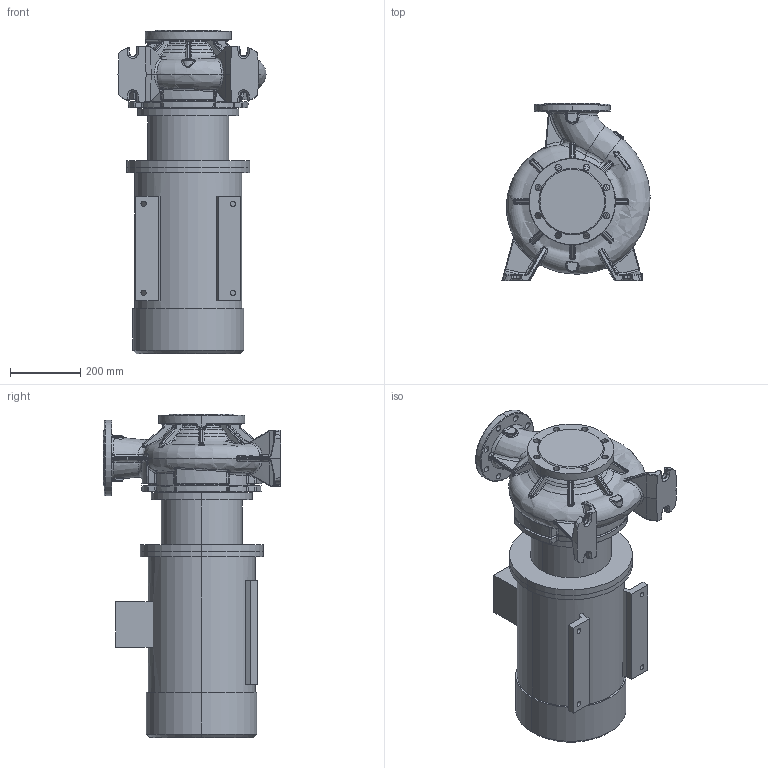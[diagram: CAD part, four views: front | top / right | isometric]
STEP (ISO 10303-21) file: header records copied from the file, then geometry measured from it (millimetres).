
FILE_DESCRIPTION (( 'STEP AP214' ), '1' );
FILE_NAME ('KRM 125-100-250-4-15.STEP', '2026-04-22T07:47:17', ( '' ), ( '' ), 'SwSTEP 2.0', 'SolidWorks 2016', '' );
FILE_SCHEMA (( 'AUTOMOTIVE_DESIGN' ));
Length unit declared in the file: millimetre
Products named in the file (1): KRM 125-100-250-4-15
Bounding box: 421.39 x 505 x 920.8 mm (x, y, z)
Volume: 72340409.3 mm3; surface area: 2215556.4 mm2
Topology: 4 solids, 4 shells, 1173 faces, 2871 edges, 1696 vertices
Faces by surface type: bspline 493, cylinder 279, plane 180, torus 123, cone 67, sphere 31
Entity records: 98505 total; most frequent: CARTESIAN_POINT 61782, ORIENTED_EDGE 5676, DIRECTION 4125, EDGE_CURVE 2838, AXIS2_PLACEMENT_3D 1774, VERTEX_POINT 1696, EDGE_LOOP 1236, UNCERTAINTY_MEASURE_WITH_UNIT 1179
